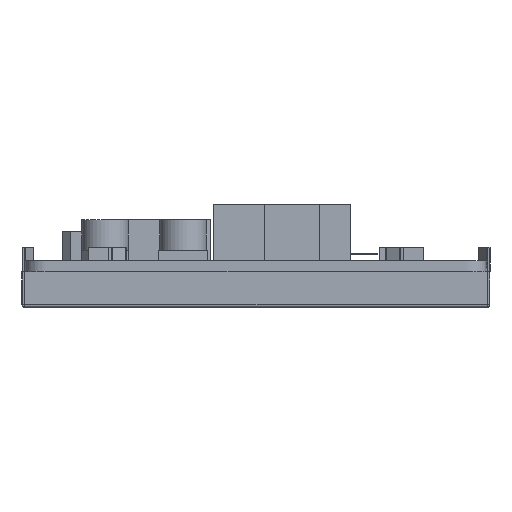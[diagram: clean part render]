
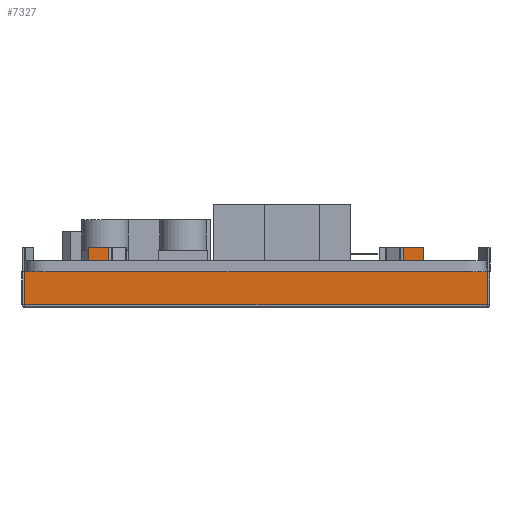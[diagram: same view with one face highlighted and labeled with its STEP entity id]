
A CAD part, left-side view. The second image highlights one B-rep face of the part: STEP entity #7327.
In plain terms, the highlighted planar face has unit normal (-1, 0, 0).
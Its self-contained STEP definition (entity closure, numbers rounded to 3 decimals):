
#2978=PLANE('',#54259);
#5135=FACE_OUTER_BOUND('',#10102,.T.);
#7327=ADVANCED_FACE('',(#5135),#2978,.F.);
#10102=EDGE_LOOP('',(#21982,#21983,#21984,#21985,#21986,#21987,#21988,#21989,
#21990,#21991,#21992,#21993,#21994,#21995,#21996,#21997));
#21982=ORIENTED_EDGE('',*,*,#33063,.T.);
#21983=ORIENTED_EDGE('',*,*,#33064,.F.);
#21984=ORIENTED_EDGE('',*,*,#33065,.F.);
#21985=ORIENTED_EDGE('',*,*,#33066,.T.);
#21986=ORIENTED_EDGE('',*,*,#33067,.T.);
#21987=ORIENTED_EDGE('',*,*,#33068,.T.);
#21988=ORIENTED_EDGE('',*,*,#33061,.T.);
#21989=ORIENTED_EDGE('',*,*,#33069,.F.);
#21990=ORIENTED_EDGE('',*,*,#33070,.T.);
#21991=ORIENTED_EDGE('',*,*,#33071,.F.);
#21992=ORIENTED_EDGE('',*,*,#33072,.F.);
#21993=ORIENTED_EDGE('',*,*,#33073,.T.);
#21994=ORIENTED_EDGE('',*,*,#33055,.T.);
#21995=ORIENTED_EDGE('',*,*,#33074,.F.);
#21996=ORIENTED_EDGE('',*,*,#33075,.F.);
#21997=ORIENTED_EDGE('',*,*,#33076,.T.);
#26877=VERTEX_POINT('',#79961);
#26878=VERTEX_POINT('',#79962);
#26883=VERTEX_POINT('',#79973);
#26884=VERTEX_POINT('',#79975);
#26885=VERTEX_POINT('',#79979);
#26886=VERTEX_POINT('',#79980);
#26887=VERTEX_POINT('',#79982);
#26888=VERTEX_POINT('',#79984);
#26889=VERTEX_POINT('',#79986);
#26890=VERTEX_POINT('',#79988);
#26891=VERTEX_POINT('',#79991);
#26892=VERTEX_POINT('',#79993);
#26893=VERTEX_POINT('',#79995);
#26894=VERTEX_POINT('',#79997);
#26895=VERTEX_POINT('',#80000);
#26896=VERTEX_POINT('',#80002);
#33055=EDGE_CURVE('',#26877,#26878,#42586,.T.);
#33061=EDGE_CURVE('',#26884,#26883,#42592,.T.);
#33063=EDGE_CURVE('',#26885,#26886,#42594,.T.);
#33064=EDGE_CURVE('',#26887,#26886,#42595,.T.);
#33065=EDGE_CURVE('',#26888,#26887,#42596,.T.);
#33066=EDGE_CURVE('',#26888,#26889,#42597,.T.);
#33067=EDGE_CURVE('',#26889,#26890,#42598,.T.);
#33068=EDGE_CURVE('',#26890,#26884,#42599,.T.);
#33069=EDGE_CURVE('',#26891,#26883,#42600,.T.);
#33070=EDGE_CURVE('',#26891,#26892,#42601,.T.);
#33071=EDGE_CURVE('',#26893,#26892,#42602,.T.);
#33072=EDGE_CURVE('',#26894,#26893,#42603,.T.);
#33073=EDGE_CURVE('',#26894,#26877,#42604,.T.);
#33074=EDGE_CURVE('',#26895,#26878,#42605,.T.);
#33075=EDGE_CURVE('',#26896,#26895,#42606,.T.);
#33076=EDGE_CURVE('',#26896,#26885,#42607,.T.);
#42586=LINE('',#79960,#48751);
#42592=LINE('',#79974,#48757);
#42594=LINE('',#79978,#48759);
#42595=LINE('',#79981,#48760);
#42596=LINE('',#79983,#48761);
#42597=LINE('',#79985,#48762);
#42598=LINE('',#79987,#48763);
#42599=LINE('',#79989,#48764);
#42600=LINE('',#79990,#48765);
#42601=LINE('',#79992,#48766);
#42602=LINE('',#79994,#48767);
#42603=LINE('',#79996,#48768);
#42604=LINE('',#79998,#48769);
#42605=LINE('',#79999,#48770);
#42606=LINE('',#80001,#48771);
#42607=LINE('',#80003,#48772);
#48751=VECTOR('',#65802,1.);
#48757=VECTOR('',#65810,1.);
#48759=VECTOR('',#65814,1.);
#48760=VECTOR('',#65815,1.);
#48761=VECTOR('',#65816,1.);
#48762=VECTOR('',#65817,1.);
#48763=VECTOR('',#65818,1.);
#48764=VECTOR('',#65819,1.);
#48765=VECTOR('',#65820,1.);
#48766=VECTOR('',#65821,1.);
#48767=VECTOR('',#65822,1.);
#48768=VECTOR('',#65823,1.);
#48769=VECTOR('',#65824,1.);
#48770=VECTOR('',#65825,1.);
#48771=VECTOR('',#65826,1.);
#48772=VECTOR('',#65827,1.);
#54259=AXIS2_PLACEMENT_3D('',#80004,#65828,#65829);
#65802=DIRECTION('',(0.,1.,0.));
#65810=DIRECTION('',(0.,1.,0.));
#65814=DIRECTION('',(0.,1.,0.));
#65815=DIRECTION('',(0.,0.,-1.));
#65816=DIRECTION('',(0.,-1.,0.));
#65817=DIRECTION('',(0.,0.,-1.));
#65818=DIRECTION('',(0.,1.,0.));
#65819=DIRECTION('',(0.,0.,-1.));
#65820=DIRECTION('',(0.,0.,-1.));
#65821=DIRECTION('',(0.,-1.,0.));
#65822=DIRECTION('',(0.,0.,-1.));
#65823=DIRECTION('',(0.,-1.,0.));
#65824=DIRECTION('',(0.,0.,-1.));
#65825=DIRECTION('',(0.,0.,1.));
#65826=DIRECTION('',(0.,1.,0.));
#65827=DIRECTION('',(0.,0.,1.));
#65828=DIRECTION('',(1.,0.,0.));
#65829=DIRECTION('',(0.,-1.,0.));
#79960=CARTESIAN_POINT('',(196.712,-14.395,-1.6));
#79961=CARTESIAN_POINT('',(196.712,43.765,-1.6));
#79962=CARTESIAN_POINT('',(196.712,53.005,-1.6));
#79973=CARTESIAN_POINT('',(196.712,40.765,-1.6));
#79974=CARTESIAN_POINT('',(196.712,-14.395,-1.6));
#79975=CARTESIAN_POINT('',(196.712,-2.155,-1.6));
#79978=CARTESIAN_POINT('',(196.712,-14.395,-1.6));
#79979=CARTESIAN_POINT('',(196.712,-14.395,-1.6));
#79980=CARTESIAN_POINT('',(196.712,-5.155,-1.6));
#79981=CARTESIAN_POINT('',(196.712,-5.155,0.));
#79982=CARTESIAN_POINT('',(196.712,-5.155,2.));
#79983=CARTESIAN_POINT('',(196.712,-2.19,2.));
#79984=CARTESIAN_POINT('',(196.712,-2.19,2.));
#79985=CARTESIAN_POINT('',(196.712,-2.19,2.));
#79986=CARTESIAN_POINT('',(196.712,-2.19,0.));
#79987=CARTESIAN_POINT('',(196.712,-5.155,0.));
#79988=CARTESIAN_POINT('',(196.712,-2.155,0.));
#79989=CARTESIAN_POINT('',(196.712,-2.155,0.));
#79990=CARTESIAN_POINT('',(196.712,40.765,0.));
#79991=CARTESIAN_POINT('',(196.712,40.765,0.));
#79992=CARTESIAN_POINT('',(196.712,43.765,0.));
#79993=CARTESIAN_POINT('',(196.712,40.754,0.));
#79994=CARTESIAN_POINT('',(196.712,40.754,2.));
#79995=CARTESIAN_POINT('',(196.712,40.754,2.));
#79996=CARTESIAN_POINT('',(196.712,43.765,2.));
#79997=CARTESIAN_POINT('',(196.712,43.765,2.));
#79998=CARTESIAN_POINT('',(196.712,43.765,0.));
#79999=CARTESIAN_POINT('',(196.712,53.005,-6.4));
#80000=CARTESIAN_POINT('',(196.712,53.005,-6.4));
#80001=CARTESIAN_POINT('',(196.712,-14.395,-6.4));
#80002=CARTESIAN_POINT('',(196.712,-14.395,-6.4));
#80003=CARTESIAN_POINT('',(196.712,-14.395,-6.4));
#80004=CARTESIAN_POINT('',(196.712,-14.395,-6.4));
